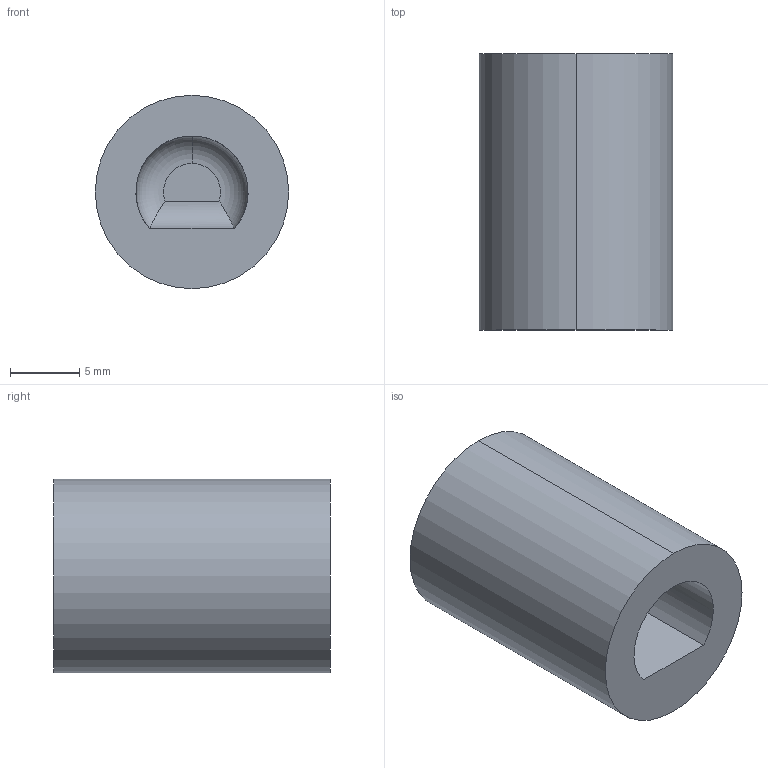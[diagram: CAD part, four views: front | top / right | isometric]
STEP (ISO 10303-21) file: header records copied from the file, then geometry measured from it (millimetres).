
FILE_DESCRIPTION (( 'STEP AP214' ), '1' );
FILE_NAME ('tps_adapter.STEP', '2025-04-15T00:04:59', ( '' ), ( '' ), 'SwSTEP 2.0', 'SolidWorks 2020', '' );
FILE_SCHEMA (( 'AUTOMOTIVE_DESIGN' ));
Length unit declared in the file: inch
Products named in the file (1): tps_adapter
Bounding box: 14 x 20 x 14 mm (x, y, z)
Volume: 2369 mm3; surface area: 1595.5 mm2
Topology: 1 solids, 1 shells, 20 faces, 45 edges, 29 vertices
Faces by surface type: plane 9, cylinder 6, torus 5
Entity records: 643 total; most frequent: CARTESIAN_POINT 143, DIRECTION 103, ORIENTED_EDGE 90, EDGE_CURVE 45, AXIS2_PLACEMENT_3D 43, VERTEX_POINT 29, CIRCLE 22, EDGE_LOOP 22
